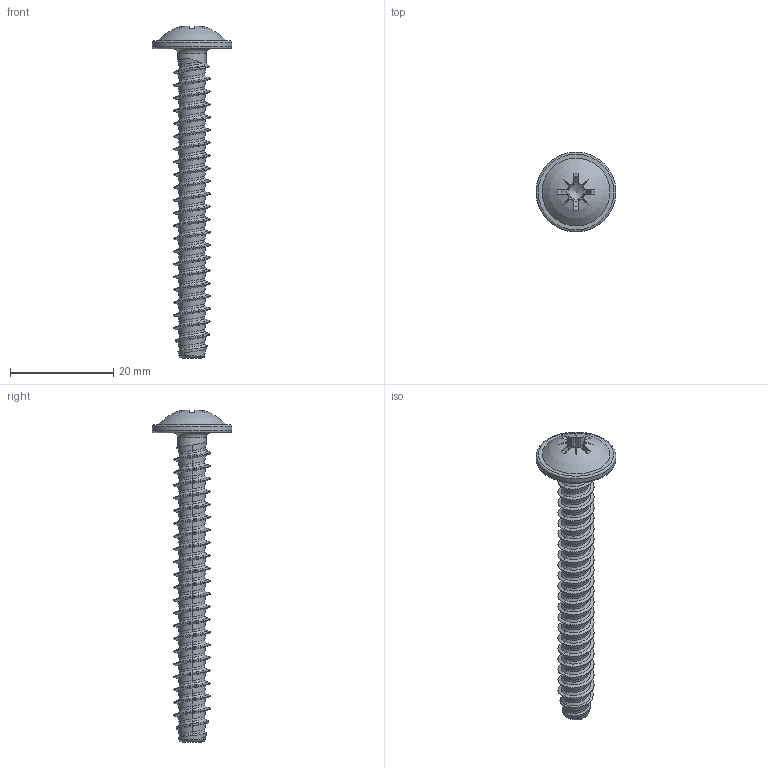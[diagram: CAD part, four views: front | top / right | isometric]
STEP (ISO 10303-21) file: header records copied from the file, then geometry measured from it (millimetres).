
FILE_DESCRIPTION(/* description */ (''),/* implementation_level */ '2;1');
FILE_NAME(/* name */ 'KN6031-STSplus-70x60-Z3.step',/* time_stamp */ '2017-10-09T17:10:39+02:00',/* author */ (''),/* organization */ (''),/* preprocessor_version */ 'ST-DEVELOPER v16',/* originating_system */ 'SIEMENS PLM Software NX 10.0',/* authorisation */ '');
FILE_SCHEMA (('AUTOMOTIVE_DESIGN { 1 0 10303 214 3 1 1 1 }'));
Length unit declared in the file: millimetre
Products named in the file (1): KN6031-STSplus-70x60-Z3
Bounding box: 15.5 x 15.5 x 64.43 mm (x, y, z)
Volume: 1888.5 mm3; surface area: 2055.6 mm2
Topology: 1 solids, 1 shells, 173 faces, 413 edges, 243 vertices
Faces by surface type: bspline 119, plane 27, cylinder 11, torus 8, cone 7, sphere 1
Full cylindrical faces by diameter (mm): 5.48 x1, 15.5 x1
Entity records: 12459 total; most frequent: CARTESIAN_POINT 9282, ORIENTED_EDGE 798, EDGE_CURVE 399, DIRECTION 353, VERTEX_POINT 238, B_SPLINE_CURVE_WITH_KNOTS 204, EDGE_LOOP 182, ADVANCED_FACE 173
